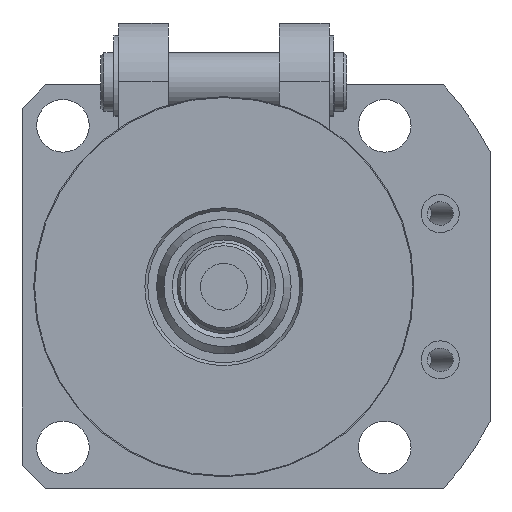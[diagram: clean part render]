
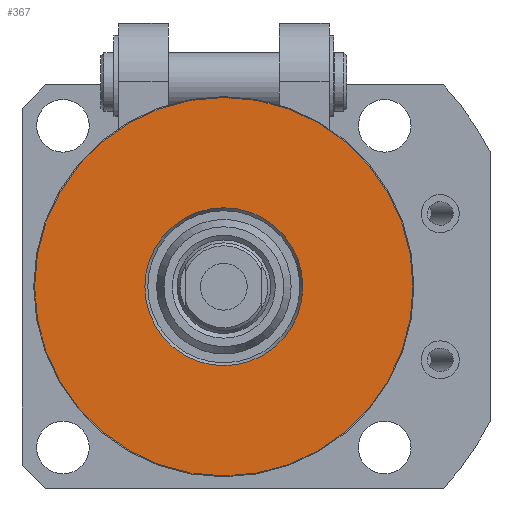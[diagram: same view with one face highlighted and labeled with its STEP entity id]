
A CAD part, front view. The second image highlights one B-rep face of the part: STEP entity #367.
In plain terms, the highlighted planar face has unit normal (0, -1, 0).
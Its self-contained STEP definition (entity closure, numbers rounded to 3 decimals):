
#367 = ADVANCED_FACE( '', ( #732, #733 ), #734, .T. );
#732 = FACE_OUTER_BOUND( '', #1462, .T. );
#733 = FACE_BOUND( '', #1463, .T. );
#734 = PLANE( '', #1464 );
#1462 = EDGE_LOOP( '', ( #2392 ) );
#1463 = EDGE_LOOP( '', ( #2393 ) );
#1464 = AXIS2_PLACEMENT_3D( '', #2394, #2395, #2396 );
#2392 = ORIENTED_EDGE( '', *, *, #4505, .T. );
#2393 = ORIENTED_EDGE( '', *, *, #4506, .F. );
#2394 = CARTESIAN_POINT( '', ( 0., -63., 0. ) );
#2395 = DIRECTION( '', ( 0., -1., 0. ) );
#2396 = DIRECTION( '', ( 1., 0., 0. ) );
#4505 = EDGE_CURVE( '', #5331, #5331, #5332, .T. );
#4506 = EDGE_CURVE( '', #5333, #5333, #5334, .T. );
#5331 = VERTEX_POINT( '', #6830 );
#5332 = CIRCLE( '', #6831, 32.35 );
#5333 = VERTEX_POINT( '', #6832 );
#5334 = CIRCLE( '', #6833, 13.5 );
#6830 = CARTESIAN_POINT( '', ( -32.35, -63., 0. ) );
#6831 = AXIS2_PLACEMENT_3D( '', #8287, #8288, #8289 );
#6832 = CARTESIAN_POINT( '', ( 0., -63., 13.5 ) );
#6833 = AXIS2_PLACEMENT_3D( '', #8290, #8291, #8292 );
#8287 = CARTESIAN_POINT( '', ( 0., -63., 0. ) );
#8288 = DIRECTION( '', ( 0., -1., 0. ) );
#8289 = DIRECTION( '', ( -1., 0., 0. ) );
#8290 = CARTESIAN_POINT( '', ( 0., -63., 0. ) );
#8291 = DIRECTION( '', ( 0., -1., 0. ) );
#8292 = DIRECTION( '', ( 0., 0., 1. ) );
